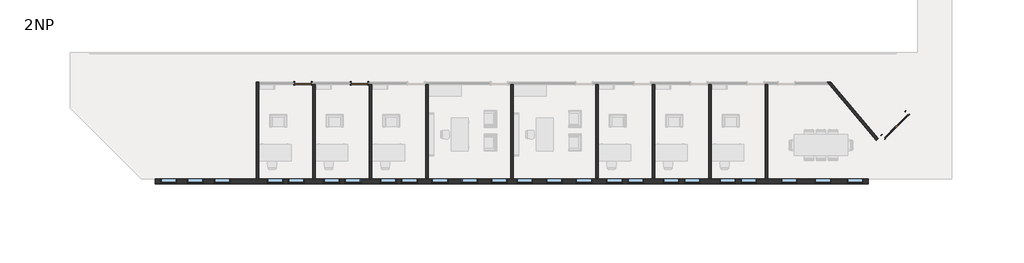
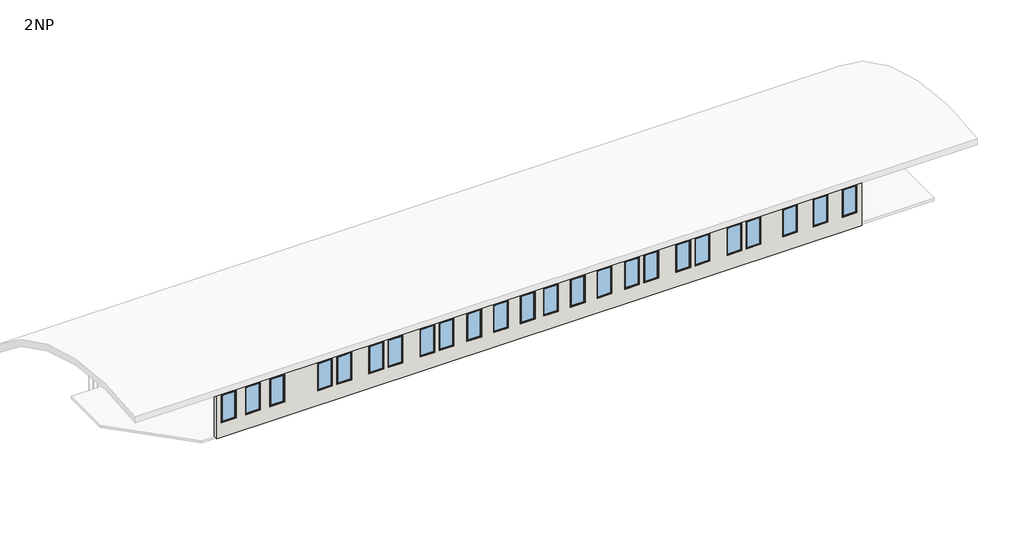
# One storey, part 1 of 2: 24 windows, 11 walls, 3 doors.
"""IFC4 building model written with IfcOpenShell, lengths in millimetres."""

from ifc_helpers import new_model, si_unit, frame, origin, place, context, project, spatial, polyline, outline, extrude, faceted_brep, transform, mapped, element, save
from components import m_double_glass_1_1830_x_2134mm_ce9160c6, m_single_flush_0915_x_2032mm_1012e85d, m_fixed_0915_x_1830mm_7ee91fd3

model = new_model("IFC4")

# Units and contexts
model_context = context("Model", 3, world=origin())
ifc_project = project(units=[si_unit("LENGTHUNIT", "METRE", prefix="MILLI")], contexts=[model_context])

# Site, building, storey
site = spatial("IfcSite", under=ifc_project)
building = spatial("IfcBuilding", under=site)
storey = spatial("IfcBuildingStorey", under=building, Name="2NP", Elevation=4000.0)

# Doors
placement = place(None, origin())
m_double_glass_1_1830_x_2134mm_shape = m_double_glass_1_1830_x_2134mm_ce9160c6(model_context)
element("IfcDoor", 1, ObjectType="M_Double-Glass 1 : 1830 x 2134mm", at=placement, inside=storey, context=model_context, shape_type="MappedRepresentation", body=[
    mapped(m_double_glass_1_1830_x_2134mm_shape, transform((35269.5413404, -1561.4077171, 4000.0), x_axis=(-0.7071067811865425, -0.7071067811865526, 0.0), y_axis=(0.7071067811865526, -0.7071067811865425, 0.0), z_axis=(0.0, 0.0, 1.0))),
])
m_single_flush_0915_x_2032mm_shape = m_single_flush_0915_x_2032mm_1012e85d(model_context)
element("IfcDoor", 2, ObjectType="M_Single-Flush : 0915 x 2032mm", at=placement, inside=storey, context=model_context, shape_type="MappedRepresentation", body=[
    mapped(m_single_flush_0915_x_2032mm_shape, transform((1762.4255273, 791.5551306, 4000.0), x_axis=(1.0, 0.0, 0.0), y_axis=(0.0, 1.0, 0.0), z_axis=(0.0, 0.0, 1.0))),
])
element("IfcDoor", 3, ObjectType="M_Single-Flush : 0915 x 2032mm", at=placement, inside=storey, context=model_context, shape_type="MappedRepresentation", body=[
    mapped(m_single_flush_0915_x_2032mm_shape, transform((4962.4255273, 791.5551306, 4000.0), x_axis=(1.0, 0.0, 0.0), y_axis=(0.0, 1.0, 0.0), z_axis=(0.0, 0.0, 1.0))),
])

# Walls
element("IfcWall", 4, ObjectType="Exterior - EIFS on Mtl. Stud", at=placement, inside=storey, context=model_context, shape_type="Brep", body=[
    faceted_brep([(33755.6755273, -4624.9448694, 4000.0), (28058.4255273, -4624.9448694, 4000.0), (27919.9255273, -4624.9448694, 4000.0), (24858.4255273, -4624.9448694, 4000.0), (24719.9255273, -4624.9448694, 4000.0), (21658.4255273, -4624.9448694, 4000.0), (21519.9255273, -4624.9448694, 4000.0), (18458.4255273, -4624.9448694, 4000.0), (18319.9255273, -4624.9448694, 4000.0), (13658.4255273, -4624.9448694, 4000.0), (13519.9255273, -4624.9448694, 4000.0), (8858.4255273, -4624.9448694, 4000.0), (8719.9255273, -4624.9448694, 4000.0), (5658.4255273, -4624.9448694, 4000.0), (5519.9255273, -4624.9448694, 4000.0), (2458.4255273, -4624.9448694, 4000.0), (2319.9255273, -4624.9448694, 4000.0), (-741.5744727, -4624.9448694, 4000.0), (-880.0744727, -4624.9448694, 4000.0), (-6587.8076313, -4624.9448694, 4000.0), (-6587.8076313, -4624.9448694, 8000.0), (33755.6755273, -4624.9448694, 8000.0), (33455.6755273, -4624.9448694, 4970.0), (33455.6755273, -4624.9448694, 6800.0), (32540.6755273, -4624.9448694, 6800.0), (32540.6755273, -4624.9448694, 4970.0), (31640.6755273, -4624.9448694, 4970.0), (31640.6755273, -4624.9448694, 6800.0), (30725.6755273, -4624.9448694, 6800.0), (30725.6755273, -4624.9448694, 4970.0), (29725.6755273, -4624.9448694, 4970.0), (29725.6755273, -4624.9448694, 6800.0), (28810.6755273, -4624.9448694, 6800.0), (28810.6755273, -4624.9448694, 4970.0), (-5380.0744727, -4624.9448694, 4970.0), (-5380.0744727, -4624.9448694, 6800.0), (-6295.0744727, -4624.9448694, 6800.0), (-6295.0744727, -4624.9448694, 4970.0), (-3865.0744727, -4624.9448694, 4970.0), (-3865.0744727, -4624.9448694, 6800.0), (-4780.0744727, -4624.9448694, 6800.0), (-4780.0744727, -4624.9448694, 4970.0), (-2350.0744727, -4624.9448694, 4970.0), (-2350.0744727, -4624.9448694, 6800.0), (-3265.0744727, -4624.9448694, 6800.0), (-3265.0744727, -4624.9448694, 4970.0), (646.6755273, -4624.9448694, 4970.0), (646.6755273, -4624.9448694, 6800.0), (-268.3244727, -4624.9448694, 6800.0), (-268.3244727, -4624.9448694, 4970.0), (1846.6755273, -4624.9448694, 4970.0), (1846.6755273, -4624.9448694, 6800.0), (931.6755273, -4624.9448694, 6800.0), (931.6755273, -4624.9448694, 4970.0), (9973.4255273, -4624.9448694, 4970.0), (9973.4255273, -4624.9448694, 6800.0), (9058.4255273, -4624.9448694, 6800.0), (9058.4255273, -4624.9448694, 4970.0), (13319.9255273, -4624.9448694, 4970.0), (13319.9255273, -4624.9448694, 6800.0), (12404.9255273, -4624.9448694, 6800.0), (12404.9255273, -4624.9448694, 4970.0), (11646.4255273, -4624.9448694, 4970.0), (11646.4255273, -4624.9448694, 6800.0), (10731.4255273, -4624.9448694, 6800.0), (10731.4255273, -4624.9448694, 4970.0), (14773.4255273, -4624.9448694, 4970.0), (14773.4255273, -4624.9448694, 6800.0), (13858.4255273, -4624.9448694, 6800.0), (13858.4255273, -4624.9448694, 4970.0), (18119.9255273, -4624.9448694, 4970.0), (18119.9255273, -4624.9448694, 6800.0), (17204.9255273, -4624.9448694, 6800.0), (17204.9255273, -4624.9448694, 4970.0), (16446.4255273, -4624.9448694, 4970.0), (16446.4255273, -4624.9448694, 6800.0), (15531.4255273, -4624.9448694, 6800.0), (15531.4255273, -4624.9448694, 4970.0), (3846.6755273, -4624.9448694, 4970.0), (3846.6755273, -4624.9448694, 6800.0), (2931.6755273, -4624.9448694, 6800.0), (2931.6755273, -4624.9448694, 4970.0), (5046.6755273, -4624.9448694, 4970.0), (5046.6755273, -4624.9448694, 6800.0), (4131.6755273, -4624.9448694, 6800.0), (4131.6755273, -4624.9448694, 4970.0), (7046.6755273, -4624.9448694, 4970.0), (7046.6755273, -4624.9448694, 6800.0), (6131.6755273, -4624.9448694, 6800.0), (6131.6755273, -4624.9448694, 4970.0), (8246.6755273, -4624.9448694, 4970.0), (8246.6755273, -4624.9448694, 6800.0), (7331.6755273, -4624.9448694, 6800.0), (7331.6755273, -4624.9448694, 4970.0), (19846.6755273, -4624.9448694, 4970.0), (19846.6755273, -4624.9448694, 6800.0), (18931.6755273, -4624.9448694, 6800.0), (18931.6755273, -4624.9448694, 4970.0), (21046.6755273, -4624.9448694, 4970.0), (21046.6755273, -4624.9448694, 6800.0), (20131.6755273, -4624.9448694, 6800.0), (20131.6755273, -4624.9448694, 4970.0), (23046.6755273, -4624.9448694, 4970.0), (23046.6755273, -4624.9448694, 6800.0), (22131.6755273, -4624.9448694, 6800.0), (22131.6755273, -4624.9448694, 4970.0), (24246.6755273, -4624.9448694, 4970.0), (24246.6755273, -4624.9448694, 6800.0), (23331.6755273, -4624.9448694, 6800.0), (23331.6755273, -4624.9448694, 4970.0), (26246.6755273, -4624.9448694, 4970.0), (26246.6755273, -4624.9448694, 6800.0), (25331.6755273, -4624.9448694, 6800.0), (25331.6755273, -4624.9448694, 4970.0), (27446.6755273, -4624.9448694, 4970.0), (27446.6755273, -4624.9448694, 6800.0), (26531.6755273, -4624.9448694, 6800.0), (26531.6755273, -4624.9448694, 4970.0), (-6587.8076313, -4891.9448694, 4000.0), (33755.6755273, -4891.9448694, 4000.0), (33755.6755273, -4891.9448694, 8000.0), (-6587.8076313, -4891.9448694, 8000.0), (33455.6755273, -4891.9448694, 6800.0), (33455.6755273, -4891.9448694, 4970.0), (32540.6755273, -4891.9448694, 4970.0), (32540.6755273, -4891.9448694, 6800.0), (31640.6755273, -4891.9448694, 6800.0), (31640.6755273, -4891.9448694, 4970.0), (30725.6755273, -4891.9448694, 4970.0), (30725.6755273, -4891.9448694, 6800.0), (29725.6755273, -4891.9448694, 6800.0), (29725.6755273, -4891.9448694, 4970.0), (28810.6755273, -4891.9448694, 4970.0), (28810.6755273, -4891.9448694, 6800.0), (-5380.0744727, -4891.9448694, 6800.0), (-5380.0744727, -4891.9448694, 4970.0), (-6295.0744727, -4891.9448694, 4970.0), (-6295.0744727, -4891.9448694, 6800.0), (-3865.0744727, -4891.9448694, 6800.0), (-3865.0744727, -4891.9448694, 4970.0), (-4780.0744727, -4891.9448694, 4970.0), (-4780.0744727, -4891.9448694, 6800.0), (-2350.0744727, -4891.9448694, 6800.0), (-2350.0744727, -4891.9448694, 4970.0), (-3265.0744727, -4891.9448694, 4970.0), (-3265.0744727, -4891.9448694, 6800.0), (646.6755273, -4891.9448694, 6800.0), (646.6755273, -4891.9448694, 4970.0), (-268.3244727, -4891.9448694, 4970.0), (-268.3244727, -4891.9448694, 6800.0), (1846.6755273, -4891.9448694, 6800.0), (1846.6755273, -4891.9448694, 4970.0), (931.6755273, -4891.9448694, 4970.0), (931.6755273, -4891.9448694, 6800.0), (9973.4255273, -4891.9448694, 6800.0), (9973.4255273, -4891.9448694, 4970.0), (9058.4255273, -4891.9448694, 4970.0), (9058.4255273, -4891.9448694, 6800.0), (13319.9255273, -4891.9448694, 6800.0), (13319.9255273, -4891.9448694, 4970.0), (12404.9255273, -4891.9448694, 4970.0), (12404.9255273, -4891.9448694, 6800.0), (11646.4255273, -4891.9448694, 6800.0), (11646.4255273, -4891.9448694, 4970.0), (10731.4255273, -4891.9448694, 4970.0), (10731.4255273, -4891.9448694, 6800.0), (14773.4255273, -4891.9448694, 4970.0), (13858.4255273, -4891.9448694, 4970.0), (13858.4255273, -4891.9448694, 6800.0), (14773.4255273, -4891.9448694, 6800.0), (18119.9255273, -4891.9448694, 4970.0), (17204.9255273, -4891.9448694, 4970.0), (17204.9255273, -4891.9448694, 6800.0), (18119.9255273, -4891.9448694, 6800.0), (16446.4255273, -4891.9448694, 4970.0), (15531.4255273, -4891.9448694, 4970.0), (15531.4255273, -4891.9448694, 6800.0), (16446.4255273, -4891.9448694, 6800.0), (3846.6755273, -4891.9448694, 4970.0), (2931.6755273, -4891.9448694, 4970.0), (2931.6755273, -4891.9448694, 6800.0), (3846.6755273, -4891.9448694, 6800.0), (5046.6755273, -4891.9448694, 4970.0), (4131.6755273, -4891.9448694, 4970.0), (4131.6755273, -4891.9448694, 6800.0), (5046.6755273, -4891.9448694, 6800.0), (7046.6755273, -4891.9448694, 4970.0), (6131.6755273, -4891.9448694, 4970.0), (6131.6755273, -4891.9448694, 6800.0), (7046.6755273, -4891.9448694, 6800.0), (8246.6755273, -4891.9448694, 4970.0), (7331.6755273, -4891.9448694, 4970.0), (7331.6755273, -4891.9448694, 6800.0), (8246.6755273, -4891.9448694, 6800.0), (19846.6755273, -4891.9448694, 4970.0), (18931.6755273, -4891.9448694, 4970.0), (18931.6755273, -4891.9448694, 6800.0), (19846.6755273, -4891.9448694, 6800.0), (21046.6755273, -4891.9448694, 4970.0), (20131.6755273, -4891.9448694, 4970.0), (20131.6755273, -4891.9448694, 6800.0), (21046.6755273, -4891.9448694, 6800.0), (23046.6755273, -4891.9448694, 4970.0), (22131.6755273, -4891.9448694, 4970.0), (22131.6755273, -4891.9448694, 6800.0), (23046.6755273, -4891.9448694, 6800.0), (24246.6755273, -4891.9448694, 4970.0), (23331.6755273, -4891.9448694, 4970.0), (23331.6755273, -4891.9448694, 6800.0), (24246.6755273, -4891.9448694, 6800.0), (26246.6755273, -4891.9448694, 4970.0), (25331.6755273, -4891.9448694, 4970.0), (25331.6755273, -4891.9448694, 6800.0), (26246.6755273, -4891.9448694, 6800.0), (27446.6755273, -4891.9448694, 4970.0), (26531.6755273, -4891.9448694, 4970.0), (26531.6755273, -4891.9448694, 6800.0), (27446.6755273, -4891.9448694, 6800.0)], [[[0, 1, 2, 3, 4, 5, 6, 7, 8, 9, 10, 11, 12, 13, 14, 15, 16, 17, 18, 19, 20, 21], [22, 23, 24, 25], [26, 27, 28, 29], [30, 31, 32, 33], [34, 35, 36, 37], [38, 39, 40, 41], [42, 43, 44, 45], [46, 47, 48, 49], [50, 51, 52, 53], [54, 55, 56, 57], [58, 59, 60, 61], [62, 63, 64, 65], [66, 67, 68, 69], [70, 71, 72, 73], [74, 75, 76, 77], [78, 79, 80, 81], [82, 83, 84, 85], [86, 87, 88, 89], [90, 91, 92, 93], [94, 95, 96, 97], [98, 99, 100, 101], [102, 103, 104, 105], [106, 107, 108, 109], [110, 111, 112, 113], [114, 115, 116, 117]], [[118, 119, 120, 121], [122, 123, 124, 125], [126, 127, 128, 129], [130, 131, 132, 133], [134, 135, 136, 137], [138, 139, 140, 141], [142, 143, 144, 145], [146, 147, 148, 149], [150, 151, 152, 153], [154, 155, 156, 157], [158, 159, 160, 161], [162, 163, 164, 165], [166, 167, 168, 169], [170, 171, 172, 173], [174, 175, 176, 177], [178, 179, 180, 181], [182, 183, 184, 185], [186, 187, 188, 189], [190, 191, 192, 193], [194, 195, 196, 197], [198, 199, 200, 201], [202, 203, 204, 205], [206, 207, 208, 209], [210, 211, 212, 213], [214, 215, 216, 217]], [[19, 18, 17, 16, 15, 14, 13, 12, 11, 10, 9, 8, 7, 6, 5, 4, 3, 2, 1, 0, 119, 118]], [[20, 19, 118, 121]], [[21, 20, 121, 120]], [[21, 120, 119, 0]], [[23, 22, 123, 122]], [[24, 23, 122, 125]], [[25, 24, 125, 124]], [[22, 25, 124, 123]], [[27, 26, 127, 126]], [[28, 27, 126, 129]], [[29, 28, 129, 128]], [[26, 29, 128, 127]], [[31, 30, 131, 130]], [[32, 31, 130, 133]], [[33, 32, 133, 132]], [[30, 33, 132, 131]], [[34, 135, 134, 35]], [[35, 134, 137, 36]], [[136, 37, 36, 137]], [[135, 34, 37, 136]], [[39, 38, 139, 138]], [[40, 39, 138, 141]], [[41, 40, 141, 140]], [[38, 41, 140, 139]], [[43, 42, 143, 142]], [[44, 43, 142, 145]], [[45, 44, 145, 144]], [[42, 45, 144, 143]], [[47, 46, 147, 146]], [[48, 47, 146, 149]], [[49, 48, 149, 148]], [[46, 49, 148, 147]], [[51, 50, 151, 150]], [[52, 51, 150, 153]], [[53, 52, 153, 152]], [[50, 53, 152, 151]], [[55, 54, 155, 154]], [[56, 55, 154, 157]], [[57, 56, 157, 156]], [[54, 57, 156, 155]], [[59, 58, 159, 158]], [[60, 59, 158, 161]], [[61, 60, 161, 160]], [[58, 61, 160, 159]], [[62, 163, 162, 63]], [[63, 162, 165, 64]], [[64, 165, 164, 65]], [[163, 62, 65, 164]], [[67, 66, 166, 169]], [[68, 67, 169, 168]], [[69, 68, 168, 167]], [[66, 69, 167, 166]], [[71, 70, 170, 173]], [[72, 71, 173, 172]], [[73, 72, 172, 171]], [[70, 73, 171, 170]], [[75, 74, 174, 177]], [[76, 75, 177, 176]], [[77, 76, 176, 175]], [[74, 77, 175, 174]], [[79, 78, 178, 181]], [[80, 79, 181, 180]], [[81, 80, 180, 179]], [[78, 81, 179, 178]], [[83, 82, 182, 185]], [[84, 83, 185, 184]], [[85, 84, 184, 183]], [[82, 85, 183, 182]], [[87, 86, 186, 189]], [[88, 87, 189, 188]], [[89, 88, 188, 187]], [[86, 89, 187, 186]], [[91, 90, 190, 193]], [[92, 91, 193, 192]], [[93, 92, 192, 191]], [[90, 93, 191, 190]], [[95, 94, 194, 197]], [[96, 95, 197, 196]], [[97, 96, 196, 195]], [[94, 97, 195, 194]], [[99, 98, 198, 201]], [[100, 99, 201, 200]], [[101, 100, 200, 199]], [[98, 101, 199, 198]], [[103, 102, 202, 205]], [[104, 103, 205, 204]], [[105, 104, 204, 203]], [[102, 105, 203, 202]], [[107, 106, 206, 209]], [[108, 107, 209, 208]], [[109, 108, 208, 207]], [[106, 109, 207, 206]], [[111, 110, 210, 213]], [[112, 111, 213, 212]], [[113, 112, 212, 211]], [[110, 113, 211, 210]], [[115, 114, 214, 217]], [[116, 115, 217, 216]], [[117, 116, 216, 215]], [[114, 117, 215, 214]]]),
])
element("IfcWall", 5, ObjectType="Interior - 138mm Partition (1-hr)", at=placement, inside=storey, context=model_context, shape_type="Brep", body=[
    faceted_brep([(-741.5744727, -4624.9448694, 4000.0), (-741.5744727, 722.3051306, 4000.0), (-741.5744727, 860.8051306, 4000.0), (-741.5744727, 860.8051306, 7700.0), (-741.5744727, 722.3051306, 7700.0), (-741.5744727, -4624.9448694, 7700.0), (-880.0744727, -4624.9448694, 4000.0), (-880.0744727, -4624.9448694, 7700.0), (-880.0744727, 860.8051306, 7700.0), (-880.0744727, 860.8051306, 4000.0)], [[[0, 1, 2, 3, 4, 5]], [[6, 7, 8, 9]], [[2, 1, 0, 6, 9]], [[5, 4, 3, 8, 7]], [[3, 2, 9, 8]], [[0, 5, 7, 6]]]),
])
element("IfcWall", 6, ObjectType="Interior - 138mm Partition (1-hr)", at=placement, inside=storey, context=model_context, shape_type="SweptSolid", body=[
    extrude(outline(polyline([(28058.4255273, 722.3051306), (28058.4255273, -4624.9448694), (27919.9255273, -4624.9448694), (27919.9255273, 722.3051306), (28058.4255273, 722.3051306)])), frame((0.0, 0.0, 4000.0), z_axis=(0.0, 0.0, 1.0), x_axis=(1.0, 0.0, 0.0)), (0.0, 0.0, 1.0), 3700.0),
])
element("IfcWall", 7, ObjectType="Interior - 138mm Partition (1-hr)", at=placement, inside=storey, context=model_context, shape_type="Brep", body=[
    faceted_brep([(34302.1897841, -2343.3293589, 4000.0), (31613.6017157, 860.8051306, 4000.0), (31613.6017157, 860.8051306, 8000.0), (34302.1897841, -2343.3293589, 8000.0), (34205.6755273, -2443.7758967, 4000.0), (34205.6755273, -2443.7758967, 8000.0), (31432.8028061, 860.8051306, 8000.0), (31432.8028061, 860.8051306, 7700.0), (31432.8028061, 860.8051306, 4000.0), (31549.018105, 722.3051306, 4000.0), (34205.6755273, -2439.8436157, 4000.0), (34205.6755273, -2439.8436157, 8000.0)], [[[0, 1, 2, 3]], [[4, 5, 6, 7, 8, 9]], [[1, 0, 10, 4, 9, 8]], [[3, 2, 6, 5, 11]], [[2, 1, 8, 7, 6]], [[0, 3, 11, 10]], [[11, 5, 4, 10]]]),
])
element("IfcWall", 8, ObjectType="Interior - 138mm Partition (1-hr)", at=placement, inside=storey, context=model_context, shape_type="SweptSolid", body=[
    extrude(outline(polyline([(2458.4255273, 722.3051306), (2458.4255273, -4624.9448694), (2319.9255273, -4624.9448694), (2319.9255273, 722.3051306), (2458.4255273, 722.3051306)])), frame((0.0, 0.0, 4000.0), z_axis=(0.0, 0.0, 1.0), x_axis=(1.0, 0.0, 0.0)), (0.0, 0.0, 1.0), 3700.0),
])
element("IfcWall", 9, ObjectType="Interior - 138mm Partition (1-hr)", at=placement, inside=storey, context=model_context, shape_type="SweptSolid", body=[
    extrude(outline(polyline([(5658.4255273, 722.3051306), (5658.4255273, -4624.9448694), (5519.9255273, -4624.9448694), (5519.9255273, 722.3051306), (5658.4255273, 722.3051306)])), frame((0.0, 0.0, 4000.0), z_axis=(0.0, 0.0, 1.0), x_axis=(1.0, 0.0, 0.0)), (0.0, 0.0, 1.0), 3700.0),
])
element("IfcWall", 10, ObjectType="Interior - 138mm Partition (1-hr)", at=placement, inside=storey, context=model_context, shape_type="SweptSolid", body=[
    extrude(outline(polyline([(8858.4255273, 722.3051306), (8858.4255273, -4624.9448694), (8719.9255273, -4624.9448694), (8719.9255273, 722.3051306), (8858.4255273, 722.3051306)])), frame((0.0, 0.0, 4000.0), z_axis=(0.0, 0.0, 1.0), x_axis=(1.0, 0.0, 0.0)), (0.0, 0.0, 1.0), 3700.0),
])
element("IfcWall", 11, ObjectType="Interior - 138mm Partition (1-hr)", at=placement, inside=storey, context=model_context, shape_type="SweptSolid", body=[
    extrude(outline(polyline([(24858.4255273, 722.3051306), (24858.4255273, -4624.9448694), (24719.9255273, -4624.9448694), (24719.9255273, 722.3051306), (24858.4255273, 722.3051306)])), frame((0.0, 0.0, 4000.0), z_axis=(0.0, 0.0, 1.0), x_axis=(1.0, 0.0, 0.0)), (0.0, 0.0, 1.0), 3700.0),
])
element("IfcWall", 12, ObjectType="Interior - 138mm Partition (1-hr)", at=placement, inside=storey, context=model_context, shape_type="SweptSolid", body=[
    extrude(outline(polyline([(13658.4255273, 722.3051306), (13658.4255273, -4624.9448694), (13519.9255273, -4624.9448694), (13519.9255273, 722.3051306), (13658.4255273, 722.3051306)])), frame((0.0, 0.0, 4000.0), z_axis=(0.0, 0.0, 1.0), x_axis=(1.0, 0.0, 0.0)), (0.0, 0.0, 1.0), 3700.0),
])
element("IfcWall", 13, ObjectType="Interior - 138mm Partition (1-hr)", at=placement, inside=storey, context=model_context, shape_type="SweptSolid", body=[
    extrude(outline(polyline([(21658.4255273, 722.3051306), (21658.4255273, -4624.9448694), (21519.9255273, -4624.9448694), (21519.9255273, 722.3051306), (21658.4255273, 722.3051306)])), frame((0.0, 0.0, 4000.0), z_axis=(0.0, 0.0, 1.0), x_axis=(1.0, 0.0, 0.0)), (0.0, 0.0, 1.0), 3700.0),
])
element("IfcWall", 14, ObjectType="Interior - 138mm Partition (1-hr)", at=placement, inside=storey, context=model_context, shape_type="SweptSolid", body=[
    extrude(outline(polyline([(18458.4255273, 722.3051306), (18458.4255273, -4624.9448694), (18319.9255273, -4624.9448694), (18319.9255273, 722.3051306), (18458.4255273, 722.3051306)])), frame((0.0, 0.0, 4000.0), z_axis=(0.0, 0.0, 1.0), x_axis=(1.0, 0.0, 0.0)), (0.0, 0.0, 1.0), 3700.0),
])

# Windows
m_fixed_0915_x_1830mm_shape = m_fixed_0915_x_1830mm_7ee91fd3(model_context)
element("IfcWindow", 15, ObjectType="M_Fixed : 0915 x 1830mm", at=placement, inside=storey, context=model_context, shape_type="MappedRepresentation", body=[
    mapped(m_fixed_0915_x_1830mm_shape, transform((32998.1755273, -4745.4448694, 4665.0), x_axis=(-1.0, 0.0, 0.0), y_axis=(0.0, -1.0, 0.0), z_axis=(0.0, 0.0, 1.0))),
])
element("IfcWindow", 16, ObjectType="M_Fixed : 0915 x 1830mm", at=placement, inside=storey, context=model_context, shape_type="MappedRepresentation", body=[
    mapped(m_fixed_0915_x_1830mm_shape, transform((31183.1755273, -4745.4448694, 4665.0), x_axis=(-1.0, 0.0, 0.0), y_axis=(0.0, -1.0, 0.0), z_axis=(0.0, 0.0, 1.0))),
])
element("IfcWindow", 17, ObjectType="M_Fixed : 0915 x 1830mm", at=placement, inside=storey, context=model_context, shape_type="MappedRepresentation", body=[
    mapped(m_fixed_0915_x_1830mm_shape, transform((29268.1755273, -4745.4448694, 4665.0), x_axis=(-1.0, 0.0, 0.0), y_axis=(0.0, -1.0, 0.0), z_axis=(0.0, 0.0, 1.0))),
])
element("IfcWindow", 18, ObjectType="M_Fixed : 0915 x 1830mm", at=placement, inside=storey, context=model_context, shape_type="MappedRepresentation", body=[
    mapped(m_fixed_0915_x_1830mm_shape, transform((-5837.5744727, -4745.4448694, 4665.0), x_axis=(-1.0, 0.0, 0.0), y_axis=(0.0, -1.0, 0.0), z_axis=(0.0, 0.0, 1.0))),
])
element("IfcWindow", 19, ObjectType="M_Fixed : 0915 x 1830mm", at=placement, inside=storey, context=model_context, shape_type="MappedRepresentation", body=[
    mapped(m_fixed_0915_x_1830mm_shape, transform((-4322.5744727, -4745.4448694, 4665.0), x_axis=(-1.0, 0.0, 0.0), y_axis=(0.0, -1.0, 0.0), z_axis=(0.0, 0.0, 1.0))),
])
element("IfcWindow", 20, ObjectType="M_Fixed : 0915 x 1830mm", at=placement, inside=storey, context=model_context, shape_type="MappedRepresentation", body=[
    mapped(m_fixed_0915_x_1830mm_shape, transform((-2807.5744727, -4745.4448694, 4665.0), x_axis=(-1.0, 0.0, 0.0), y_axis=(0.0, -1.0, 0.0), z_axis=(0.0, 0.0, 1.0))),
])
element("IfcWindow", 21, ObjectType="M_Fixed : 0915 x 1830mm", at=placement, inside=storey, context=model_context, shape_type="MappedRepresentation", body=[
    mapped(m_fixed_0915_x_1830mm_shape, transform((189.1755273, -4745.4448694, 4665.0), x_axis=(-1.0, 0.0, 0.0), y_axis=(0.0, -1.0, 0.0), z_axis=(0.0, 0.0, 1.0))),
])
element("IfcWindow", 22, ObjectType="M_Fixed : 0915 x 1830mm", at=placement, inside=storey, context=model_context, shape_type="MappedRepresentation", body=[
    mapped(m_fixed_0915_x_1830mm_shape, transform((1389.1755273, -4745.4448694, 4665.0), x_axis=(-1.0, 0.0, 0.0), y_axis=(0.0, -1.0, 0.0), z_axis=(0.0, 0.0, 1.0))),
])
element("IfcWindow", 23, ObjectType="M_Fixed : 0915 x 1830mm", at=placement, inside=storey, context=model_context, shape_type="MappedRepresentation", body=[
    mapped(m_fixed_0915_x_1830mm_shape, transform((3389.1755273, -4745.4448694, 4665.0), x_axis=(-1.0, 0.0, 0.0), y_axis=(0.0, -1.0, 0.0), z_axis=(0.0, 0.0, 1.0))),
])
element("IfcWindow", 24, ObjectType="M_Fixed : 0915 x 1830mm", at=placement, inside=storey, context=model_context, shape_type="MappedRepresentation", body=[
    mapped(m_fixed_0915_x_1830mm_shape, transform((4589.1755273, -4745.4448694, 4665.0), x_axis=(-1.0, 0.0, 0.0), y_axis=(0.0, -1.0, 0.0), z_axis=(0.0, 0.0, 1.0))),
])
element("IfcWindow", 25, ObjectType="M_Fixed : 0915 x 1830mm", at=placement, inside=storey, context=model_context, shape_type="MappedRepresentation", body=[
    mapped(m_fixed_0915_x_1830mm_shape, transform((6589.1755273, -4745.4448694, 4665.0), x_axis=(-1.0, 0.0, 0.0), y_axis=(0.0, -1.0, 0.0), z_axis=(0.0, 0.0, 1.0))),
])
element("IfcWindow", 26, ObjectType="M_Fixed : 0915 x 1830mm", at=placement, inside=storey, context=model_context, shape_type="MappedRepresentation", body=[
    mapped(m_fixed_0915_x_1830mm_shape, transform((7789.1755273, -4745.4448694, 4665.0), x_axis=(-1.0, 0.0, 0.0), y_axis=(0.0, -1.0, 0.0), z_axis=(0.0, 0.0, 1.0))),
])
element("IfcWindow", 27, ObjectType="M_Fixed : 0915 x 1830mm", at=placement, inside=storey, context=model_context, shape_type="MappedRepresentation", body=[
    mapped(m_fixed_0915_x_1830mm_shape, transform((22589.1755273, -4745.4448694, 4665.0), x_axis=(-1.0, 0.0, 0.0), y_axis=(0.0, -1.0, 0.0), z_axis=(0.0, 0.0, 1.0))),
])
element("IfcWindow", 28, ObjectType="M_Fixed : 0915 x 1830mm", at=placement, inside=storey, context=model_context, shape_type="MappedRepresentation", body=[
    mapped(m_fixed_0915_x_1830mm_shape, transform((23789.1755273, -4745.4448694, 4665.0), x_axis=(-1.0, 0.0, 0.0), y_axis=(0.0, -1.0, 0.0), z_axis=(0.0, 0.0, 1.0))),
])
element("IfcWindow", 29, ObjectType="M_Fixed : 0915 x 1830mm", at=placement, inside=storey, context=model_context, shape_type="MappedRepresentation", body=[
    mapped(m_fixed_0915_x_1830mm_shape, transform((25789.1755273, -4745.4448694, 4665.0), x_axis=(-1.0, 0.0, 0.0), y_axis=(0.0, -1.0, 0.0), z_axis=(0.0, 0.0, 1.0))),
])
element("IfcWindow", 30, ObjectType="M_Fixed : 0915 x 1830mm", at=placement, inside=storey, context=model_context, shape_type="MappedRepresentation", body=[
    mapped(m_fixed_0915_x_1830mm_shape, transform((26989.1755273, -4745.4448694, 4665.0), x_axis=(-1.0, 0.0, 0.0), y_axis=(0.0, -1.0, 0.0), z_axis=(0.0, 0.0, 1.0))),
])
element("IfcWindow", 31, ObjectType="M_Fixed : 0915 x 1830mm", at=placement, inside=storey, context=model_context, shape_type="MappedRepresentation", body=[
    mapped(m_fixed_0915_x_1830mm_shape, transform((9515.9255273, -4745.4448694, 4665.0), x_axis=(-1.0, 0.0, 0.0), y_axis=(0.0, -1.0, 0.0), z_axis=(0.0, 0.0, 1.0))),
])
element("IfcWindow", 32, ObjectType="M_Fixed : 0915 x 1830mm", at=placement, inside=storey, context=model_context, shape_type="MappedRepresentation", body=[
    mapped(m_fixed_0915_x_1830mm_shape, transform((12862.4255273, -4745.4448694, 4665.0), x_axis=(-1.0, 0.0, 0.0), y_axis=(0.0, -1.0, 0.0), z_axis=(0.0, 0.0, 1.0))),
])
element("IfcWindow", 33, ObjectType="M_Fixed : 0915 x 1830mm", at=placement, inside=storey, context=model_context, shape_type="MappedRepresentation", body=[
    mapped(m_fixed_0915_x_1830mm_shape, transform((19389.1755273, -4745.4448694, 4665.0), x_axis=(-1.0, 0.0, 0.0), y_axis=(0.0, -1.0, 0.0), z_axis=(0.0, 0.0, 1.0))),
])
element("IfcWindow", 34, ObjectType="M_Fixed : 0915 x 1830mm", at=placement, inside=storey, context=model_context, shape_type="MappedRepresentation", body=[
    mapped(m_fixed_0915_x_1830mm_shape, transform((20589.1755273, -4745.4448694, 4665.0), x_axis=(-1.0, 0.0, 0.0), y_axis=(0.0, -1.0, 0.0), z_axis=(0.0, 0.0, 1.0))),
])
element("IfcWindow", 35, ObjectType="M_Fixed : 0915 x 1830mm", at=placement, inside=storey, context=model_context, shape_type="MappedRepresentation", body=[
    mapped(m_fixed_0915_x_1830mm_shape, transform((11188.9255273, -4745.4448694, 4665.0), x_axis=(-1.0, 0.0, 0.0), y_axis=(0.0, -1.0, 0.0), z_axis=(0.0, 0.0, 1.0))),
])
element("IfcWindow", 36, ObjectType="M_Fixed : 0915 x 1830mm", at=placement, inside=storey, context=model_context, shape_type="MappedRepresentation", body=[
    mapped(m_fixed_0915_x_1830mm_shape, transform((14315.9255273, -4745.4448694, 4665.0), x_axis=(-1.0, 0.0, 0.0), y_axis=(0.0, -1.0, 0.0), z_axis=(0.0, 0.0, 1.0))),
])
element("IfcWindow", 37, ObjectType="M_Fixed : 0915 x 1830mm", at=placement, inside=storey, context=model_context, shape_type="MappedRepresentation", body=[
    mapped(m_fixed_0915_x_1830mm_shape, transform((17662.4255273, -4745.4448694, 4665.0), x_axis=(-1.0, 0.0, 0.0), y_axis=(0.0, -1.0, 0.0), z_axis=(0.0, 0.0, 1.0))),
])
element("IfcWindow", 38, ObjectType="M_Fixed : 0915 x 1830mm", at=placement, inside=storey, context=model_context, shape_type="MappedRepresentation", body=[
    mapped(m_fixed_0915_x_1830mm_shape, transform((15988.9255273, -4745.4448694, 4665.0), x_axis=(-1.0, 0.0, 0.0), y_axis=(0.0, -1.0, 0.0), z_axis=(0.0, 0.0, 1.0))),
])

save(model, "model.ifc")
